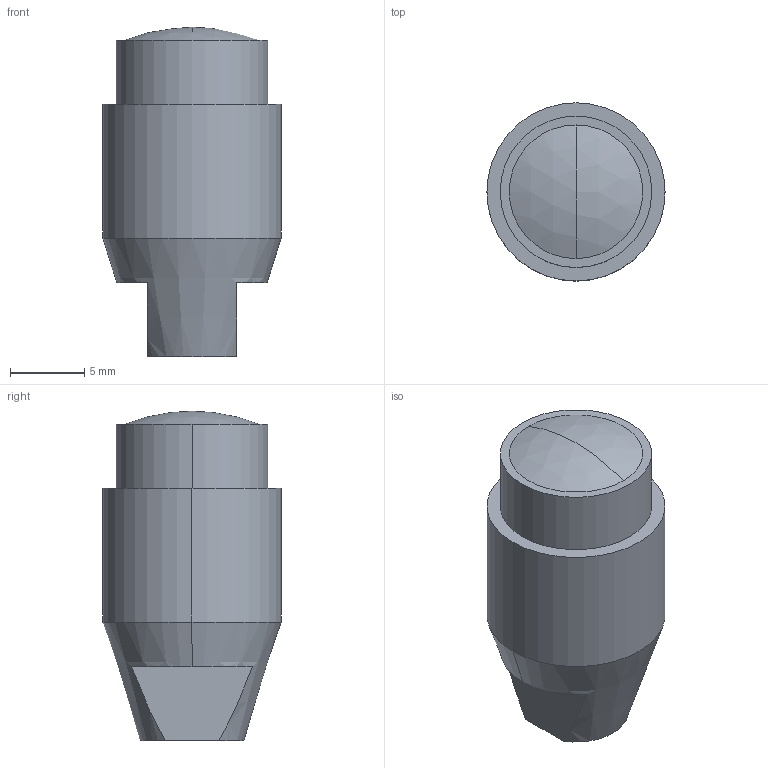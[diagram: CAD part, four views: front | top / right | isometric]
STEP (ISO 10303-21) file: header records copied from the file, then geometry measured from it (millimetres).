
FILE_DESCRIPTION (( 'STEP AP203' ), '1' );
FILE_NAME ('FX-LE2.STEP', '2005-09-08T02:45:16', ( '' ), ( '' ), 'SwSTEP 2.0', 'SolidWorks 2004073', '' );
FILE_SCHEMA (( 'CONFIG_CONTROL_DESIGN' ));
Length unit declared in the file: millimetre
Products named in the file (1): FX-LE2
Bounding box: 12 x 12 x 22.2 mm (x, y, z)
Volume: 1846.6 mm3; surface area: 968.1 mm2
Topology: 1 solids, 1 shells, 18 faces, 38 edges, 25 vertices
Faces by surface type: plane 8, cylinder 6, sphere 2, cone 2
Entity records: 593 total; most frequent: CARTESIAN_POINT 110, DIRECTION 94, ORIENTED_EDGE 76, AXIS2_PLACEMENT_3D 41, EDGE_CURVE 38, VERTEX_POINT 25, CIRCLE 22, EDGE_LOOP 21
